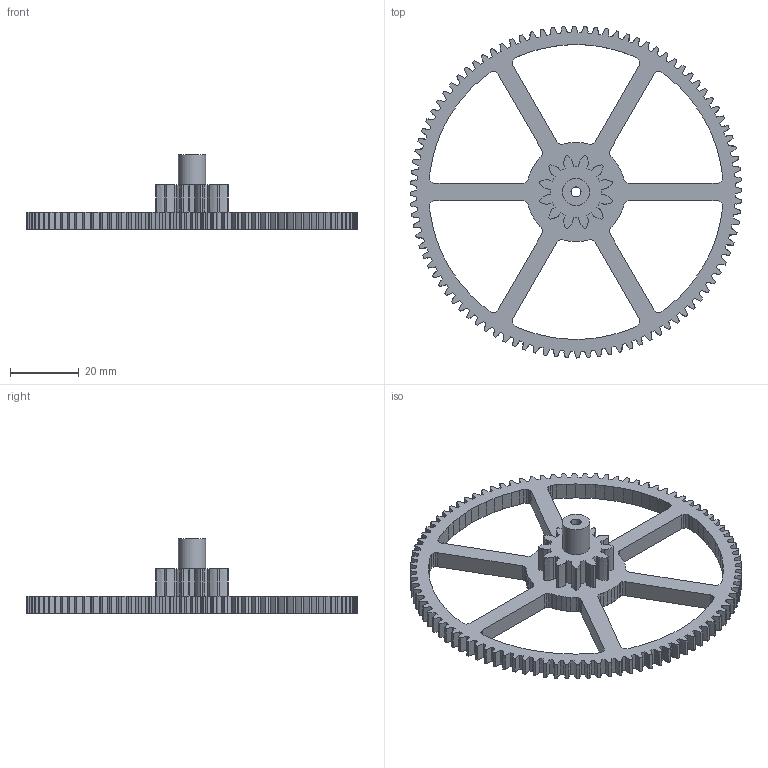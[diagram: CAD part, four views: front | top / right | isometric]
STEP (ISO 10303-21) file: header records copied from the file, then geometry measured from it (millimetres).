
FILE_DESCRIPTION(('Open CASCADE Model'),'2;1');
FILE_NAME('Open CASCADE Shape Model','2026-10-05T13:03:06',('Author'),( 'Open CASCADE'),'Open CASCADE STEP processor 7.9','Open CASCADE 7.9' ,'Unknown');
FILE_SCHEMA(('AUTOMOTIVE_DESIGN { 1 0 10303 214 1 1 1 1 }'));
Products named in the file (1): Open CASCADE STEP translator 7.9 10
Bounding box: 96.91 x 96.91 x 21.8 mm (x, y, z)
Volume: 16352.9 mm3; surface area: 12904.5 mm2
Topology: 1 solids, 1 shells, 678 faces, 2022 edges, 1348 vertices
Faces by surface type: plane 244, cylinder 218, extrusion 216
Full cylindrical faces by diameter (mm): 2.95 x1, 8 x1
Entity records: 54878 total; most frequent: CARTESIAN_POINT 15653, DIRECTION 6780, VECTOR 4546, LINE 4330, ORIENTED_EDGE 4044, PCURVE 4044, DEFINITIONAL_REPRESENTATION 4044, EDGE_CURVE 2022
